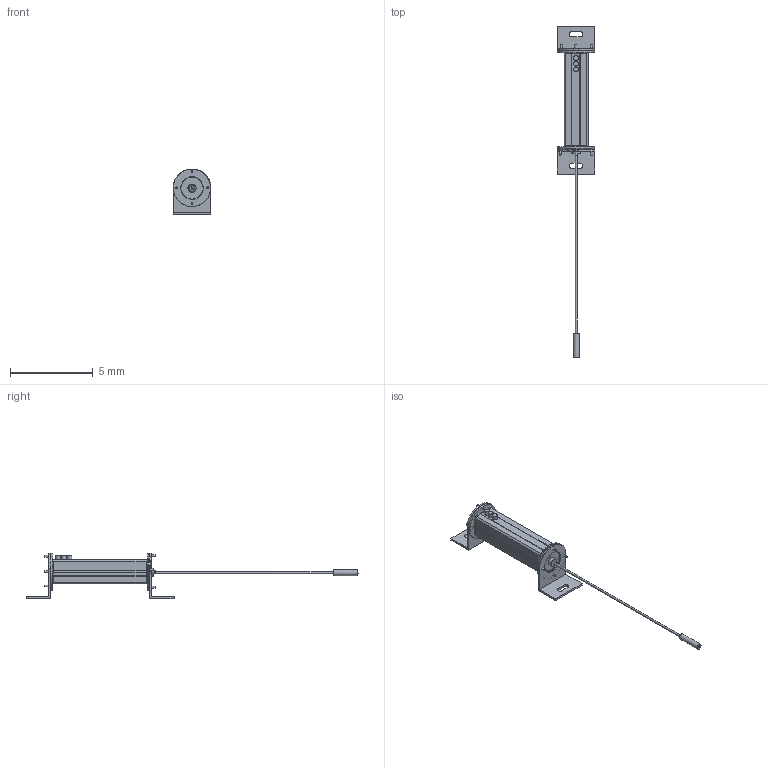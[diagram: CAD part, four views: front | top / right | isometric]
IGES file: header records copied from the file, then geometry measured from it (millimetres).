
Start section:  Autodesk DirectConnect version 7.0.27.0 ---- IGES version 5.3
Global section: file name: C:\ACADFILES\SS_PYLONS\CUSTOMER_FILES\SS-04-PYLON_3D_SMB.iges; native system: Autodesk DirectConnect 7.0.27.0; preprocessor: 7.0.27.0; author: ENGINEERMAIN; organization: Unknown; date: 20150810.123859; units: millimetre
Bounding box: 2.26 x 20.01 x 2.75 mm (x, y, z)
Surface area: 155.4 mm2 (no closed solid volume)
Topology: 0 solids, 0 shells, 754 faces, 3833 edges, 3829 vertices
Faces by surface type: bspline 754
